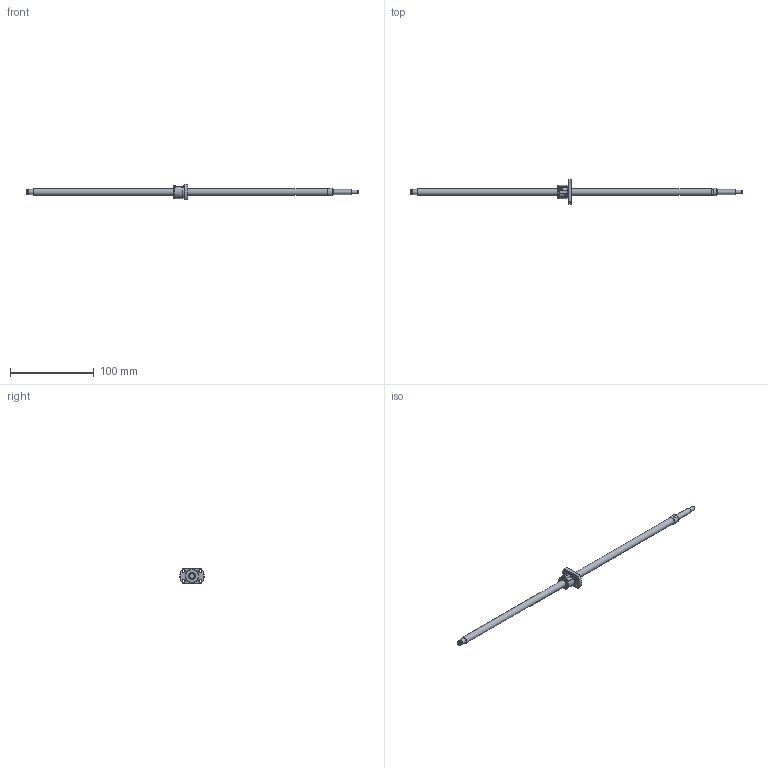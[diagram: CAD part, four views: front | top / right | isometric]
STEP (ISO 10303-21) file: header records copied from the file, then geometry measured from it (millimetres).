
FILE_DESCRIPTION(/* description */ ('STEP AP214'),/* implementation_level */ '2;1');
FILE_NAME(/* name */ 'SRT0801-347R397C7B0X(167.5Processing)',/* time_stamp */ '2026-08-04T19:55:36+02:00',/* author */ ('License CC BY-ND 4.0'),/* organization */ ('CADENAS'),/* preprocessor_version */ 'ST-DEVELOPER v20',/* originating_system */ 'PARTsolutions',/* authorisation */ ' ');
FILE_SCHEMA (('AUTOMOTIVE_DESIGN {1 0 10303 214 3 1 1}'));
Length unit declared in the file: millimetre
Products named in the file (3): SRT0801-347R397C7B0X(167.5Processing); SRT0801-347R430BCt7Processing30Shaft; SRT0801Nut
Assembly tree (2 placements, depth 2):
  SRT0801-347R397C7B0X(167.5Processing)
    SRT0801-347R430BCt7Processing30Shaft
    SRT0801Nut
Bounding box: 397 x 29 x 18 mm (x, y, z)
Volume: 22461.8 mm3; surface area: 12256.3 mm2
Topology: 2 solids, 2 shells, 69 faces, 163 edges, 104 vertices
Faces by surface type: plane 34, cylinder 20, cone 14, torus 1
Full cylindrical faces by diameter (mm): 2 x2, 3.4 x4, 4.5 x1, 5.7 x1, 6 x3, 8 x2, 9.5 x1, 15.5 x1, 16 x1
Entity records: 1905 total; most frequent: CARTESIAN_POINT 362, DIRECTION 322, ORIENTED_EDGE 258, AXIS2_PLACEMENT_3D 139, EDGE_CURVE 129, EDGE_LOOP 108, FACE_BOUND 108, VERTEX_POINT 93
